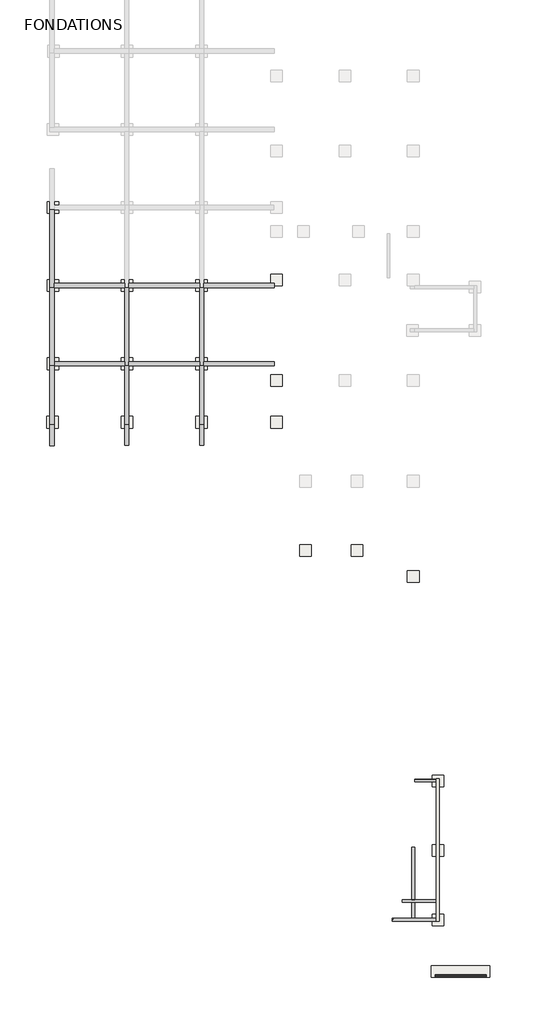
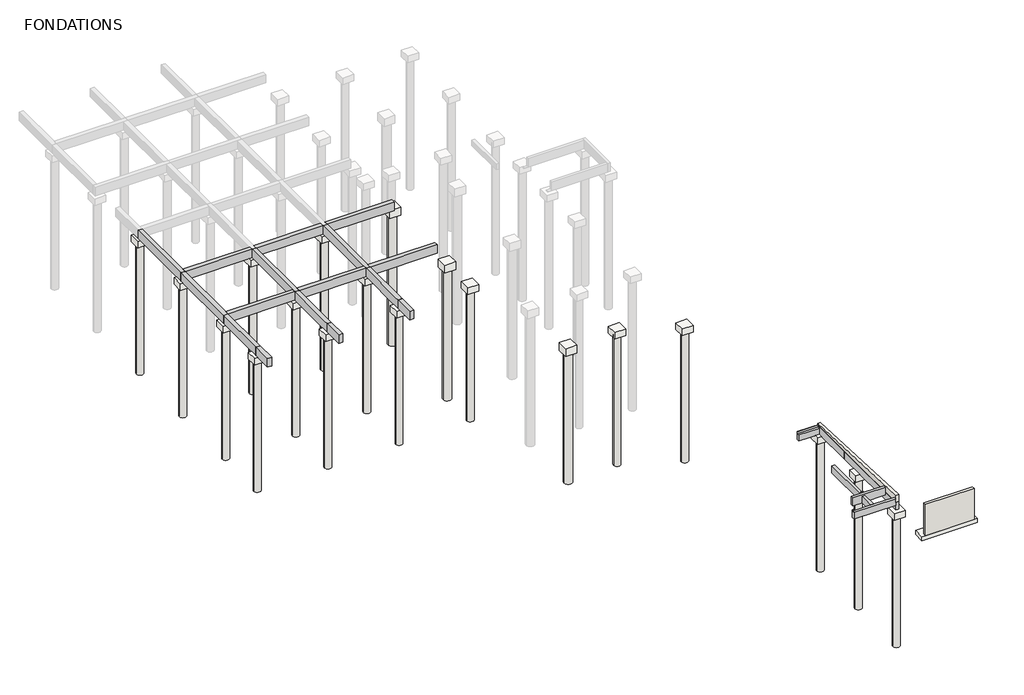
# One storey, part 1 of 3: 38 slabs, 23 beams, 2 walls, 1 footing.
"""IFC4 building model written with IfcOpenShell, lengths in millimetres."""

from ifc_helpers import new_model, si_unit, point, frame, frame_2d, origin, place, context, project, spatial, polyline, circle_curve, trimmed, segment, composite_curve, outline, extrude, faceted_brep, element, save
from ifc_brep_helpers import plane_surface, cylinder_surface, advanced_brep

model = new_model("IFC4")

# Units and contexts
model_context = context("Model", 3, world=origin())
ifc_project = project(units=[si_unit("LENGTHUNIT", "METRE", prefix="MILLI")], contexts=[model_context])

# Site, building, storey
site = spatial("IfcSite", under=ifc_project)
building = spatial("IfcBuilding", under=site)
storey = spatial("IfcBuildingStorey", under=building, Name="FONDATIONS", Elevation=-650.0)

# Beams
placement = place(None, origin())
element("IfcBeam", 1, ObjectType="Longrine : 20x70h formant chasse roue ht=10cm", at=placement, inside=storey, context=model_context, shape_type="SweptSolid", body=[
    extrude(outline(polyline([(39788.5636525, 7739.3762477), (39988.5636525, 7739.3762477), (39988.5636525, 4120.06616), (39788.5636525, 4120.06616), (39788.5636525, 7739.3762477)])), frame((0.0, 0.0, -700.0), z_axis=(0.0, 0.0, 1.0), x_axis=(1.0, 0.0, 0.0)), (0.0, 0.0, 1.0), 520.0),
    extrude(outline(polyline([(39988.5636525, 4106.9762477), (39788.5636525, 4106.9762477), (39788.5636525, 4120.06616), (39988.5636525, 4120.06616), (39988.5636525, 4106.9762477)])), frame((0.0, 0.0, -20.0), z_axis=(0.0, 0.0, 1.0), x_axis=(1.0, 0.0, 0.0)), (0.0, 0.0, 1.0), 20.0),
])
element("IfcBeam", 2, ObjectType="Longrine : 20x60h", at=placement, inside=storey, context=model_context, shape_type="Brep", body=[
    faceted_brep([(39989.0485373, 12449.8020807, -470.0), (39989.0485373, 12449.8020807, -1070.0), (39989.0485373, 12249.8020807, -1070.0), (39989.0485373, 12249.8020807, -610.8270678), (39989.0485373, 12418.9863353, -620.0), (39989.0485373, 12418.9863353, -470.0), (41489.0482781, 12249.8020807, -1070.0), (41689.0482781, 12249.8020807, -1070.0), (41689.0482781, 12249.8020807, -470.0), (41489.0482781, 12249.8020807, -470.0), (41489.0482781, 12249.8020807, -610.8270678), (41689.0482781, 12449.8020807, -1070.0), (41689.0482781, 12449.8020807, -470.0), (41489.0482781, 12418.9863353, -470.0), (41489.0482781, 12418.9863353, -620.0)], [[[0, 1, 2, 3, 4, 5]], [[2, 6, 7, 8, 9, 10, 3]], [[2, 1, 11, 7, 6]], [[1, 0, 12, 11]], [[12, 0, 5, 13, 9, 8]], [[13, 14, 10, 9]], [[10, 14, 4, 3]], [[8, 7, 11, 12]], [[14, 13, 5, 4]]]),
])
element("IfcBeam", 3, ObjectType="Longrine : 20x60h", at=placement, inside=storey, context=model_context, shape_type="Brep", body=[
    faceted_brep([(41489.0482781, 9097.0020807, -1070.0), (41489.0482781, 9097.0020807, -470.0), (41489.0482781, 12249.8020807, -470.0), (41489.0482781, 12249.8020807, -610.8270678), (41489.0482781, 12249.8020807, -1070.0), (41689.0482781, 9097.0020807, -1070.0), (41689.0482781, 12249.8020807, -1070.0), (41689.0482781, 9097.0020807, -470.0), (41689.0482781, 12249.8020807, -470.0)], [[[0, 1, 2, 3, 4]], [[5, 0, 4, 6]], [[7, 5, 6, 8]], [[1, 7, 8, 2]], [[4, 3, 2, 8, 6]], [[1, 0, 5, 7]]]),
])
element("IfcBeam", 4, ObjectType="Longrine : 20x60h", at=placement, inside=storey, context=model_context, shape_type="Brep", body=[
    faceted_brep([(41489.0482781, 2622.1194445, -470.0), (41489.0482781, 2622.1194445, -700.0), (41489.0482781, 2622.1194445, -1070.0), (41689.0482781, 2622.1194445, -1070.0), (41689.0482781, 2622.1194445, -470.0), (41501.6761683, 2622.1194445, -470.0), (41489.0482781, 9097.0020807, -470.0), (41489.0482781, 9097.0020807, -1070.0), (41689.0482781, 9097.0020807, -1070.0), (41689.0482781, 9097.0020807, -470.0)], [[[0, 1, 2, 3, 4, 5]], [[2, 1, 0, 6, 7]], [[3, 2, 7, 8]], [[4, 3, 8, 9]], [[0, 5, 4, 9, 6]], [[6, 9, 8, 7]]]),
])
element("IfcBeam", 5, ObjectType="Longrine : 20x60h", at=placement, inside=storey, context=model_context, shape_type="Brep", body=[
    faceted_brep([(39116.2100101, 3920.06616, -100.0), (39116.2100101, 4120.06616, -100.0), (39116.2100101, 4120.06616, -700.0), (39116.2100101, 3920.06616, -700.0), (39788.5636525, 3920.06616, -700.0), (39988.5636525, 3920.06616, -700.0), (41489.0482781, 3920.06616, -700.0), (41489.0482781, 3920.06616, -100.0), (39788.5636525, 4120.06616, -700.0), (39988.5636525, 4120.06616, -700.0), (41489.0482781, 4120.06616, -700.0), (39988.5636525, 4120.06616, -100.0), (39988.5636525, 4120.06616, -170.0442286), (41489.0482781, 4120.06616, -170.0442286), (41489.0482781, 4119.2504146, -100.0), (39988.5636525, 4119.2504146, -100.0), (41489.0482781, 4119.2504146, -170.0), (39988.5636525, 4119.2504146, -170.0)], [[[0, 1, 2, 3]], [[0, 3, 4, 5, 6, 7]], [[3, 2, 8, 9, 10, 6, 5, 4]], [[2, 1, 11, 12, 13, 10, 9, 8]], [[1, 0, 7, 14, 15, 11]], [[16, 17, 15, 14]], [[15, 17, 12, 11]], [[17, 16, 13, 12]], [[6, 10, 13, 16, 14, 7]]]),
])
element("IfcBeam", 6, ObjectType="Longrine : 20x60h", at=placement, inside=storey, context=model_context, shape_type="AdvancedBrep", body=[
    advanced_brep(
    [(41501.6761683, 2619.8020807, -470.0), (41501.6761683, 2619.8020807, -700.0), (41501.6761683, 2622.1194445, -700.0), (41501.6761683, 2622.1194445, -470.0), (38450.2761683, 2819.8020807, -100.0), (38450.2761683, 2819.8020807, -700.0), (38450.2761683, 2619.8020807, -700.0), (38450.2761683, 2619.8020807, -200.0), (38450.2761683, 2698.8968039, -200.0), (38450.2761683, 2698.8968039, -100.0), (41489.0482781, 2619.8020807, -470.0), (41489.0482781, 2619.8020807, -200.0), (39788.5636525, 2819.8020807, -700.0), (39988.5636525, 2819.8020807, -700.0), (41489.0482781, 2819.8020807, -700.0), (41489.0482781, 2622.1194445, -700.0), (38522.323045, 2819.8020807, -100.0), (38522.323045, 2819.8020807, -200.0), (39788.5636525, 2819.8020807, -200.0), (39988.5636525, 2819.8020807, -200.0), (41489.0482781, 2819.8020807, -200.0), (41489.0482781, 2622.1194445, -470.0)],
    [
        (0, 1),
        (1, 2),
        (2, 3),
        (3, 0),
        (4, 5),
        (5, 6),
        (6, 7),
        (7, 8),
        (8, 9),
        (9, 4),
        (6, 1),
        (0, 10),
        (10, 11),
        (11, 7),
        (5, 12),
        (12, 13),
        (13, 14),
        (14, 15),
        (15, 2),
        (4, 16),
        (16, 17),
        (17, 18),
        (18, 19),
        (19, 20),
        (20, 14),
        (17, 8, circle_curve(frame((30154.8002842, 7724.0500747, -200.0), z_axis=(0.0, 0.0, -1.0), x_axis=(1.0, 0.0, 0.0)), 9698.8187702)),
        (11, 20),
        (16, 9, circle_curve(frame((30154.8002842, 7724.0500747, -100.0), z_axis=(0.0, 0.0, -1.0), x_axis=(1.0, 0.0, 0.0)), 9698.8187702)),
        (10, 21),
        (21, 15),
        (3, 21),
    ],
    [
        plane_surface(frame((41501.6761683, 2619.8020807, -100.0), z_axis=(1.0, 0.0, 0.0), x_axis=(0.0, 0.0, -1.0))),
        plane_surface(frame((38450.2761683, 2619.8020807, -100.0), z_axis=(-1.0, 0.0, 0.0), x_axis=(0.0, 0.0, 1.0))),
        plane_surface(frame((41501.6761683, 2619.8020807, -400.0), z_axis=(0.0, -1.0, 0.0), x_axis=(0.0, 0.0, -1.0))),
        plane_surface(frame((41501.6761683, 2719.8020807, -700.0), z_axis=(0.0, 0.0, -1.0), x_axis=(0.0, 1.0, 0.0))),
        plane_surface(frame((41501.6761683, 2819.8020807, -400.0), z_axis=(0.0, 1.0, 0.0), x_axis=(0.0, 0.0, 1.0))),
        plane_surface(frame((39149.0, 2619.8020807, -200.0), z_axis=(0.0, 0.0, 1.0), x_axis=(-1.0, 0.0, 0.0))),
        cylinder_surface(frame((30154.8002842, 7724.0500747, -20.0), z_axis=(0.0, 0.0, 1.0), x_axis=(1.0, 0.0, 0.0)), 9698.8187702),
        plane_surface(frame((41501.6761683, 2719.8020807, -100.0), z_axis=(0.0, 0.0, 1.0), x_axis=(0.0, -1.0, 0.0))),
        plane_surface(frame((41489.0482781, 2619.8020807, -470.0), z_axis=(1.0, 0.0, 0.0), x_axis=(0.0, -1.0, 0.0))),
        plane_surface(frame((41689.0482781, 2619.8020807, -470.0), z_axis=(0.0, 0.0, 1.0), x_axis=(-1.0, 0.0, 0.0))),
        plane_surface(frame((41489.0482781, 2622.1194445, -470.0), z_axis=(0.0, 1.0, 0.0), x_axis=(0.0, 0.0, -1.0))),
    ],
    [
        (0, [[1, 2, 3, 4]]),
        (1, [[5, 6, 7, 8, 9, 10]]),
        (2, [[11, -1, 12, 13, 14, -7]]),
        (3, [[-6, 15, 16, 17, 18, 19, -2, -11]]),
        (4, [[-5, 20, 21, 22, 23, 24, 25, -17, -16, -15]]),
        (5, [[26, -8, -14, 27, -24, -23, -22]]),
        (6, [[-26, -21, 28, -9]]),
        (7, [[-10, -28, -20]]),
        (8, [[-13, 29, 30, -18, -25, -27]]),
        (9, [[-12, -4, 31, -29]]),
        (10, [[-30, -31, -3, -19]]),
    ],
),
])
element("IfcBeam", 7, ObjectType="Longrine : 20x60h", at=placement, inside=storey, context=model_context, shape_type="SweptSolid", body=[
    extrude(outline(polyline([(39788.5636525, 3920.06616), (39988.5636525, 3920.06616), (39988.5636525, 2819.8020807), (39788.5636525, 2819.8020807), (39788.5636525, 3920.06616)])), frame((0.0, 0.0, -700.0), z_axis=(0.0, 0.0, 1.0), x_axis=(1.0, 0.0, 0.0)), (0.0, 0.0, 1.0), 500.0),
])
element("IfcBeam", 8, ObjectType="Longrine : 30x65h", at=placement, inside=storey, context=model_context, shape_type="Brep", body=[
    faceted_brep([(14769.048278, 46399.8020807, -650.0), (14769.048278, 46399.8020807, 0.0), (14769.048278, 46463.8708492, 0.0), (14769.048278, 51799.8020807, 0.0), (14769.048278, 51799.8020807, -650.0), (15069.048278, 46399.8020807, -650.0), (15069.048278, 51799.8020807, -650.0), (15069.048278, 46699.8020807, -650.0), (15069.048278, 46399.8020807, 0.0), (15069.048278, 51799.8020807, -200.0), (15069.048278, 51799.8020807, 0.0), (15069.048278, 46699.8020807, 0.0)], [[[0, 1, 2, 3, 4]], [[5, 0, 4, 6, 7]], [[8, 5, 7, 6, 9, 10, 11]], [[1, 8, 11, 10, 3, 2]], [[1, 0, 5, 8]], [[4, 3, 10, 9, 6]]]),
])
element("IfcBeam", 9, ObjectType="Longrine : 30x65h", at=placement, inside=storey, context=model_context, shape_type="Brep", body=[
    faceted_brep([(14769.048278, 40999.8020807, -650.0), (14769.048278, 40999.8020807, 0.0), (14769.048278, 46399.8020807, 0.0), (14769.048278, 46399.8020807, -650.0), (15069.048278, 40999.8020807, -650.0), (15069.048278, 46399.8020807, -650.0), (15069.048278, 41299.8020807, -650.0), (15069.048278, 40999.8020807, 0.0), (15069.048278, 46399.8020807, -200.0), (15069.048278, 46399.8020807, 0.0), (15069.048278, 41299.8020807, 0.0)], [[[0, 1, 2, 3]], [[4, 0, 3, 5, 6]], [[7, 4, 6, 5, 8, 9, 10]], [[1, 7, 10, 9, 2]], [[3, 2, 9, 8, 5]], [[1, 0, 4, 7]]]),
])
element("IfcBeam", 10, ObjectType="Longrine : 30x65h", at=placement, inside=storey, context=model_context, shape_type="Brep", body=[
    faceted_brep([(14769.048278, 36949.8020807, -650.0), (14769.048278, 36949.8020807, 0.0), (14769.048278, 40999.8020807, 0.0), (14769.048278, 40999.8020807, -650.0), (15069.048278, 36949.8020807, -650.0), (15069.048278, 40999.8020807, -650.0), (15069.048278, 37249.8020807, -650.0), (15069.048278, 36949.8020807, 0.0), (15069.048278, 40999.8020807, -200.0), (15069.048278, 40999.8020807, 0.0), (15069.048278, 37249.8020807, 0.0)], [[[0, 1, 2, 3]], [[4, 0, 3, 5, 6]], [[7, 4, 6, 5, 8, 9, 10]], [[1, 7, 10, 9, 2]], [[3, 2, 9, 8, 5]], [[1, 0, 4, 7]]]),
])
element("IfcBeam", 11, ObjectType="Longrine : 30x65h", at=placement, inside=storey, context=model_context, shape_type="Brep", body=[
    faceted_brep([(14769.048278, 35497.620775, 0.0), (14769.048278, 35497.620775, -650.0), (15069.048278, 35497.620775, -650.0), (15069.048278, 35497.620775, 0.0), (14769.048278, 35510.1708492, 0.0), (14769.048278, 36949.8020807, 0.0), (14769.048278, 36949.8020807, -650.0), (15069.048278, 36949.8020807, -650.0), (15069.048278, 36949.8020807, -250.0), (15069.048278, 36949.8020807, 0.0), (15069.048278, 35509.8020807, 0.0)], [[[0, 1, 2, 3]], [[1, 0, 4, 5, 6]], [[2, 1, 6, 7]], [[3, 2, 7, 8, 9, 10]], [[0, 3, 10, 9, 5, 4]], [[6, 5, 9, 8, 7]]]),
])
element("IfcBeam", 12, ObjectType="Longrine : 30x65h", at=placement, inside=storey, context=model_context, shape_type="Brep", body=[
    faceted_brep([(19942.0406356, 40999.8020807, -650.0), (19942.0406356, 40999.8020807, 0.0), (19942.0406356, 41299.8020807, 0.0), (19942.0406356, 46399.8020807, 0.0), (19942.0406356, 46399.8020807, -200.0), (19942.0406356, 46399.8020807, -650.0), (19942.0406356, 41299.8020807, -650.0), (20242.0406356, 40999.8020807, -650.0), (20242.0406356, 46399.8020807, -650.0), (20242.0406356, 41299.8020807, -650.0), (20242.0406356, 40999.8020807, 0.0), (20242.0406356, 46399.8020807, -200.0), (20242.0406356, 46399.8020807, 0.0), (20242.0406356, 41299.8020807, 0.0)], [[[0, 1, 2, 3, 4, 5, 6]], [[7, 0, 6, 5, 8, 9]], [[10, 7, 9, 8, 11, 12, 13]], [[1, 10, 13, 12, 3, 2]], [[5, 4, 3, 12, 11, 8]], [[1, 0, 7, 10]]]),
])
element("IfcBeam", 13, ObjectType="Longrine : 30x65h", at=placement, inside=storey, context=model_context, shape_type="Brep", body=[
    faceted_brep([(19942.0406356, 36949.8020807, -650.0), (19942.0406356, 36949.8020807, 0.0), (19942.0406356, 37249.8020807, 0.0), (19942.0406356, 40999.8020807, 0.0), (19942.0406356, 40999.8020807, -200.0), (19942.0406356, 40999.8020807, -650.0), (19942.0406356, 37249.8020807, -650.0), (20242.0406356, 36949.8020807, -650.0), (20242.0406356, 40999.8020807, -650.0), (20242.0406356, 37249.8020807, -650.0), (20242.0406356, 36949.8020807, 0.0), (20242.0406356, 40999.8020807, -200.0), (20242.0406356, 40999.8020807, 0.0), (20242.0406356, 37249.8020807, 0.0)], [[[0, 1, 2, 3, 4, 5, 6]], [[7, 0, 6, 5, 8, 9]], [[10, 7, 9, 8, 11, 12, 13]], [[1, 10, 13, 12, 3, 2]], [[5, 4, 3, 12, 11, 8]], [[1, 0, 7, 10]]]),
])
element("IfcBeam", 14, ObjectType="Longrine : 30x65h", at=placement, inside=storey, context=model_context, shape_type="Brep", body=[
    faceted_brep([(25116.0406356, 40999.8020807, -650.0), (25116.0406356, 40999.8020807, 0.0), (25116.0406356, 41299.8020807, 0.0), (25116.0406356, 46399.8020807, 0.0), (25116.0406356, 46399.8020807, -200.0), (25116.0406356, 46399.8020807, -650.0), (25116.0406356, 41299.8020807, -650.0), (25416.0406356, 40999.8020807, -650.0), (25416.0406356, 46399.8020807, -650.0), (25416.0406356, 41299.8020807, -650.0), (25416.0406356, 40999.8020807, 0.0), (25416.0406356, 46399.8020807, -200.0), (25416.0406356, 46399.8020807, 0.0), (25416.0406356, 41299.8020807, 0.0)], [[[0, 1, 2, 3, 4, 5, 6]], [[7, 0, 6, 5, 8, 9]], [[10, 7, 9, 8, 11, 12, 13]], [[1, 10, 13, 12, 3, 2]], [[5, 4, 3, 12, 11, 8]], [[1, 0, 7, 10]]]),
])
element("IfcBeam", 15, ObjectType="Longrine : 30x65h", at=placement, inside=storey, context=model_context, shape_type="Brep", body=[
    faceted_brep([(25116.0406356, 36949.8020807, -650.0), (25116.0406356, 36949.8020807, 0.0), (25116.0406356, 37249.8020807, 0.0), (25116.0406356, 40999.8020807, 0.0), (25116.0406356, 40999.8020807, -200.0), (25116.0406356, 40999.8020807, -650.0), (25116.0406356, 37299.8020807, -650.0), (25116.0406356, 37249.8020807, -650.0), (25416.0406356, 36949.8020807, -650.0), (25416.0406356, 40999.8020807, -650.0), (25416.0406356, 37299.8020807, -650.0), (25416.0406356, 36999.8020807, -650.0), (25416.0406356, 36949.8020807, 0.0), (25416.0406356, 40999.8020807, -200.0), (25416.0406356, 40999.8020807, 0.0), (25416.0406356, 37299.8020807, 0.0), (25416.0406356, 36999.8020807, 0.0)], [[[0, 1, 2, 3, 4, 5, 6, 7]], [[8, 0, 7, 6, 5, 9, 10, 11]], [[12, 8, 11, 10, 9, 13, 14, 15, 16]], [[1, 12, 16, 15, 14, 3, 2]], [[5, 4, 3, 14, 13, 9]], [[1, 0, 8, 12]]]),
])
element("IfcBeam", 16, ObjectType="Longrine : 30x65h", at=placement, inside=storey, context=model_context, shape_type="Brep", body=[
    faceted_brep([(15069.048278, 46399.8020807, 0.0), (15069.048278, 46399.8020807, -200.0), (15069.048278, 46399.8020807, -650.0), (19942.0406356, 46399.8020807, -650.0), (19942.0406356, 46399.8020807, -200.0), (19942.0406356, 46399.8020807, 0.0), (15069.048278, 46699.8020807, -650.0), (19942.0406356, 46699.8020807, -650.0), (15069.048278, 46699.8020807, -200.0), (15069.048278, 46699.8020807, 0.0), (19942.0406356, 46699.8020807, 0.0), (19942.0406356, 46699.8020807, -200.0)], [[[0, 1, 2, 3, 4, 5]], [[2, 6, 7, 3]], [[6, 8, 9, 10, 11, 7]], [[9, 0, 5, 10]], [[2, 1, 0, 9, 8, 6]], [[5, 4, 3, 7, 11, 10]]]),
])
element("IfcBeam", 17, ObjectType="Longrine : 30x65h", at=placement, inside=storey, context=model_context, shape_type="Brep", body=[
    faceted_brep([(20242.0406356, 46399.8020807, 0.0), (20242.0406356, 46399.8020807, -200.0), (20242.0406356, 46399.8020807, -650.0), (25116.0406356, 46399.8020807, -650.0), (25116.0406356, 46399.8020807, -200.0), (25116.0406356, 46399.8020807, 0.0), (20242.0406356, 46699.8020807, -650.0), (25116.0406356, 46699.8020807, -650.0), (20242.0406356, 46699.8020807, -200.0), (20242.0406356, 46699.8020807, 0.0), (25116.0406356, 46699.8020807, 0.0), (25116.0406356, 46699.8020807, -200.0)], [[[0, 1, 2, 3, 4, 5]], [[2, 6, 7, 3]], [[6, 8, 9, 10, 11, 7]], [[9, 0, 5, 10]], [[6, 2, 1, 0, 9, 8]], [[5, 4, 3, 7, 11, 10]]]),
])
element("IfcBeam", 18, ObjectType="Longrine : 30x65h", at=placement, inside=storey, context=model_context, shape_type="Brep", body=[
    faceted_brep([(30289.0482779, 46399.8020807, -650.0), (30289.0482779, 46399.8020807, -200.0), (30289.0482779, 46399.8020807, 0.0), (25416.0406356, 46399.8020807, 0.0), (25416.0406356, 46399.8020807, -200.0), (25416.0406356, 46399.8020807, -650.0), (30289.0482779, 46699.8020807, -650.0), (30289.0482779, 46699.8020807, -200.0), (30289.0482779, 46699.8020807, 0.0), (25416.0406356, 46699.8020807, 0.0), (25416.0406356, 46699.8020807, -200.0), (25416.0406356, 46699.8020807, -650.0)], [[[0, 1, 2, 3, 4, 5]], [[2, 1, 0, 6, 7, 8]], [[5, 4, 3, 9, 10, 11]], [[6, 0, 5, 11]], [[8, 7, 6, 11, 10, 9]], [[2, 8, 9, 3]]]),
])
element("IfcBeam", 19, ObjectType="Longrine : 30x65h", at=placement, inside=storey, context=model_context, shape_type="Brep", body=[
    faceted_brep([(15069.048278, 40999.8020807, 0.0), (15069.048278, 40999.8020807, -200.0), (15069.048278, 40999.8020807, -650.0), (19942.0406356, 40999.8020807, -650.0), (19942.0406356, 40999.8020807, -200.0), (19942.0406356, 40999.8020807, 0.0), (15069.048278, 41299.8020807, -650.0), (19942.0406356, 41299.8020807, -650.0), (15069.048278, 41299.8020807, -200.0), (15069.048278, 41299.8020807, 0.0), (19942.0406356, 41299.8020807, 0.0), (19942.0406356, 41299.8020807, -200.0)], [[[0, 1, 2, 3, 4, 5]], [[2, 6, 7, 3]], [[6, 8, 9, 10, 11, 7]], [[9, 0, 5, 10]], [[2, 1, 0, 9, 8, 6]], [[5, 4, 3, 7, 11, 10]]]),
])
element("IfcBeam", 20, ObjectType="Longrine : 30x65h", at=placement, inside=storey, context=model_context, shape_type="Brep", body=[
    faceted_brep([(20242.0406356, 40999.8020807, 0.0), (20242.0406356, 40999.8020807, -200.0), (20242.0406356, 40999.8020807, -650.0), (25116.0406356, 40999.8020807, -650.0), (25116.0406356, 40999.8020807, -200.0), (25116.0406356, 40999.8020807, 0.0), (20242.0406356, 41299.8020807, -650.0), (25116.0406356, 41299.8020807, -650.0), (20242.0406356, 41299.8020807, -200.0), (20242.0406356, 41299.8020807, 0.0), (25116.0406356, 41299.8020807, 0.0), (25116.0406356, 41299.8020807, -200.0)], [[[0, 1, 2, 3, 4, 5]], [[2, 6, 7, 3]], [[6, 8, 9, 10, 11, 7]], [[9, 0, 5, 10]], [[2, 1, 0, 9, 8, 6]], [[5, 4, 3, 7, 11, 10]]]),
])
element("IfcBeam", 21, ObjectType="Longrine : 30x65h", at=placement, inside=storey, context=model_context, shape_type="Brep", body=[
    faceted_brep([(30289.0482779, 40999.8020807, -650.0), (30289.0482779, 40999.8020807, -200.0), (30289.0482779, 40999.8020807, 0.0), (25416.0406356, 40999.8020807, 0.0), (25416.0406356, 40999.8020807, -200.0), (25416.0406356, 40999.8020807, -650.0), (30289.0482779, 41299.8020807, -650.0), (25416.0406356, 41299.8020807, -650.0), (30289.0482779, 41299.8020807, 0.0), (30289.0482779, 41299.8020807, -200.0), (25416.0406356, 41299.8020807, -200.0), (25416.0406356, 41299.8020807, 0.0)], [[[0, 1, 2, 3, 4, 5]], [[6, 0, 5, 7]], [[8, 9, 6, 7, 10, 11]], [[2, 8, 11, 3]], [[2, 1, 0, 6, 9, 8]], [[5, 4, 3, 11, 10, 7]]]),
])
element("IfcBeam", 22, ObjectType="Longrine : 30x65h", at=placement, inside=storey, context=model_context, shape_type="Brep", body=[
    faceted_brep([(19942.0406356, 35509.7020807, 0.0), (19942.0406356, 35509.7020807, -650.0), (20242.0406356, 35509.7020807, -650.0), (20242.0406356, 35509.7020807, 0.0), (19942.0406356, 36949.8020807, 0.0), (19942.0406356, 36949.8020807, -250.0), (19942.0406356, 36949.8020807, -650.0), (20242.0406356, 36949.8020807, -650.0), (20242.0406356, 36949.8020807, -250.0), (20242.0406356, 36949.8020807, 0.0)], [[[0, 1, 2, 3]], [[1, 0, 4, 5, 6]], [[2, 1, 6, 7]], [[3, 2, 7, 8, 9]], [[0, 3, 9, 4]], [[6, 5, 4, 9, 8, 7]]]),
])
element("IfcBeam", 23, ObjectType="Longrine : 30x65h", at=placement, inside=storey, context=model_context, shape_type="Brep", body=[
    faceted_brep([(25116.0406356, 35509.7145436, 0.0), (25116.0406356, 35509.7145436, -650.0), (25416.0406356, 35509.7145436, -650.0), (25416.0406356, 35509.7145436, 0.0), (25116.0406356, 36949.8020807, 0.0), (25116.0406356, 36949.8020807, -250.0), (25116.0406356, 36949.8020807, -650.0), (25416.0406356, 36949.8020807, -650.0), (25416.0406356, 36949.8020807, 0.0)], [[[0, 1, 2, 3]], [[1, 0, 4, 5, 6]], [[2, 1, 6, 7]], [[3, 2, 7, 8]], [[0, 3, 8, 4]], [[6, 5, 4, 8, 7]]]),
])

# Footing
element("IfcFooting", 24, ObjectType="Semelle Filante désaxée 80x30ht", at=placement, inside=storey, context=model_context, shape_type="SweptSolid", body=[
    extrude(outline(polyline([(41148.004981, -1262.4182646), (41148.004981, -462.4182646), (45188.004981, -462.4182646), (45188.004981, -1262.4182646), (41148.004981, -1262.4182646)])), frame((0.0, 0.0, -950.0), z_axis=(0.0, 0.0, 1.0), x_axis=(1.0, 0.0, 0.0)), (0.0, 0.0, 1.0), 300.0),
])

# Slabs
element("IfcSlab", 25, ObjectType="M_Pieu-Béton : Diamètre de 60 cm", at=placement, inside=storey, context=model_context, shape_type="SweptSolid", body=[
    extrude(outline(composite_curve([segment(trimmed(circle_curve(frame_2d((30439.0482779, 46929.8020813)), 300.0), [point((30139.0482779, 46929.8020813))], [point((30739.0482779, 46929.8020813))], False, "CARTESIAN"), True, "CONTINUOUS"), segment(trimmed(circle_curve(frame_2d((30439.0482779, 46929.8020813)), 300.0), [point((30739.0482779, 46929.8020813))], [point((30139.0482779, 46929.8020813))], False, "CARTESIAN"), True, "CONTINUOUS")], self_intersect=False)), frame((0.0, 0.0, -11250.0), z_axis=(0.0, 0.0, 1.0), x_axis=(1.0, 0.0, 0.0)), (0.0, 0.0, 1.0), 10000.0),
])
element("IfcSlab", 26, ObjectType="M_Pieu-Béton : Diamètre de 60 cm", at=placement, inside=storey, context=model_context, shape_type="SweptSolid", body=[
    extrude(outline(composite_curve([segment(trimmed(circle_curve(frame_2d((30439.0482779, 39999.8020813)), 300.0), [point((30139.0482779, 39999.8020813))], [point((30739.0482779, 39999.8020813))], False, "CARTESIAN"), True, "CONTINUOUS"), segment(trimmed(circle_curve(frame_2d((30439.0482779, 39999.8020813)), 300.0), [point((30739.0482779, 39999.8020813))], [point((30139.0482779, 39999.8020813))], False, "CARTESIAN"), True, "CONTINUOUS")], self_intersect=False)), frame((0.0, 0.0, -11250.0), z_axis=(0.0, 0.0, 1.0), x_axis=(1.0, 0.0, 0.0)), (0.0, 0.0, 1.0), 10000.0),
])
element("IfcSlab", 27, ObjectType="M_Pieu-Béton : Diamètre de 60 cm", at=placement, inside=storey, context=model_context, shape_type="SweptSolid", body=[
    extrude(outline(composite_curve([segment(trimmed(circle_curve(frame_2d((32449.048278, 28249.8020807)), 300.0), [point((32149.048278, 28249.8020807))], [point((32749.048278, 28249.8020807))], False, "CARTESIAN"), True, "CONTINUOUS"), segment(trimmed(circle_curve(frame_2d((32449.048278, 28249.8020807)), 300.0), [point((32749.048278, 28249.8020807))], [point((32149.048278, 28249.8020807))], False, "CARTESIAN"), True, "CONTINUOUS")], self_intersect=False)), frame((0.0, 0.0, -11250.0), z_axis=(0.0, 0.0, 1.0), x_axis=(1.0, 0.0, 0.0)), (0.0, 0.0, 1.0), 10000.0),
])
element("IfcSlab", 28, ObjectType="M_Pieu-Béton : Diamètre de 50 cm", at=placement, inside=storey, context=model_context, shape_type="SweptSolid", body=[
    extrude(outline(composite_curve([segment(trimmed(circle_curve(frame_2d((25266.0406356, 41149.8020807)), 250.0), [point((25016.0406356, 41149.8020807))], [point((25516.0406356, 41149.8020807))], False, "CARTESIAN"), True, "CONTINUOUS"), segment(trimmed(circle_curve(frame_2d((25266.0406356, 41149.8020807)), 250.0), [point((25516.0406356, 41149.8020807))], [point((25016.0406356, 41149.8020807))], False, "CARTESIAN"), True, "CONTINUOUS")], self_intersect=False)), frame((0.0, 0.0, -11150.0), z_axis=(0.0, 0.0, 1.0), x_axis=(1.0, 0.0, 0.0)), (0.0, 0.0, 1.0), 10000.0),
])
element("IfcSlab", 29, ObjectType="M_Pieu-Béton : Diamètre de 50 cm", at=placement, inside=storey, context=model_context, shape_type="SweptSolid", body=[
    extrude(outline(composite_curve([segment(trimmed(circle_curve(frame_2d((20092.0406356, 41149.8020807)), 250.0), [point((19842.0406356, 41149.8020807))], [point((20342.0406356, 41149.8020807))], False, "CARTESIAN"), True, "CONTINUOUS"), segment(trimmed(circle_curve(frame_2d((20092.0406356, 41149.8020807)), 250.0), [point((20342.0406356, 41149.8020807))], [point((19842.0406356, 41149.8020807))], False, "CARTESIAN"), True, "CONTINUOUS")], self_intersect=False)), frame((0.0, 0.0, -11150.0), z_axis=(0.0, 0.0, 1.0), x_axis=(1.0, 0.0, 0.0)), (0.0, 0.0, 1.0), 10000.0),
])
element("IfcSlab", 30, ObjectType="M_Pieu-Béton : Diamètre de 50 cm", at=placement, inside=storey, context=model_context, shape_type="SweptSolid", body=[
    extrude(outline(composite_curve([segment(trimmed(circle_curve(frame_2d((25266.0406356, 46549.8020807)), 250.0), [point((25016.0406356, 46549.8020807))], [point((25516.0406356, 46549.8020807))], False, "CARTESIAN"), True, "CONTINUOUS"), segment(trimmed(circle_curve(frame_2d((25266.0406356, 46549.8020807)), 250.0), [point((25516.0406356, 46549.8020807))], [point((25016.0406356, 46549.8020807))], False, "CARTESIAN"), True, "CONTINUOUS")], self_intersect=False)), frame((0.0, 0.0, -11150.0), z_axis=(0.0, 0.0, 1.0), x_axis=(1.0, 0.0, 0.0)), (0.0, 0.0, 1.0), 10000.0),
])
element("IfcSlab", 31, ObjectType="M_Pieu-Béton : Diamètre de 50 cm", at=placement, inside=storey, context=model_context, shape_type="SweptSolid", body=[
    extrude(outline(composite_curve([segment(trimmed(circle_curve(frame_2d((20092.0406356, 46549.8020807)), 250.0), [point((19842.0406356, 46549.8020807))], [point((20342.0406356, 46549.8020807))], False, "CARTESIAN"), True, "CONTINUOUS"), segment(trimmed(circle_curve(frame_2d((20092.0406356, 46549.8020807)), 250.0), [point((20342.0406356, 46549.8020807))], [point((19842.0406356, 46549.8020807))], False, "CARTESIAN"), True, "CONTINUOUS")], self_intersect=False)), frame((0.0, 0.0, -11150.0), z_axis=(0.0, 0.0, 1.0), x_axis=(1.0, 0.0, 0.0)), (0.0, 0.0, 1.0), 10000.0),
])
element("IfcSlab", 32, ObjectType="M_Pieu-Béton : Diamètre de 50 cm", at=placement, inside=storey, context=model_context, shape_type="SweptSolid", body=[
    extrude(outline(composite_curve([segment(trimmed(circle_curve(frame_2d((25266.0406356, 37109.8020807)), 250.0), [point((25016.0406356, 37109.8020807))], [point((25516.0406356, 37109.8020807))], False, "CARTESIAN"), True, "CONTINUOUS"), segment(trimmed(circle_curve(frame_2d((25266.0406356, 37109.8020807)), 250.0), [point((25516.0406356, 37109.8020807))], [point((25016.0406356, 37109.8020807))], False, "CARTESIAN"), True, "CONTINUOUS")], self_intersect=False)), frame((0.0, 0.0, -11150.0), z_axis=(0.0, 0.0, 1.0), x_axis=(1.0, 0.0, 0.0)), (0.0, 0.0, 1.0), 10000.0),
])
element("IfcSlab", 33, ObjectType="M_Pieu-Béton : Diamètre de 50 cm", at=placement, inside=storey, context=model_context, shape_type="SweptSolid", body=[
    extrude(outline(composite_curve([segment(trimmed(circle_curve(frame_2d((30439.0482779, 37109.8020807)), 250.0), [point((30189.0482779, 37109.8020807))], [point((30689.0482779, 37109.8020807))], False, "CARTESIAN"), True, "CONTINUOUS"), segment(trimmed(circle_curve(frame_2d((30439.0482779, 37109.8020807)), 250.0), [point((30689.0482779, 37109.8020807))], [point((30189.0482779, 37109.8020807))], False, "CARTESIAN"), True, "CONTINUOUS")], self_intersect=False)), frame((0.0, 0.0, -11150.0), z_axis=(0.0, 0.0, 1.0), x_axis=(1.0, 0.0, 0.0)), (0.0, 0.0, 1.0), 10000.0),
])
element("IfcSlab", 34, ObjectType="M_Pieu-Béton : Diamètre de 50 cm", at=placement, inside=storey, context=model_context, shape_type="SweptSolid", body=[
    extrude(outline(composite_curve([segment(trimmed(circle_curve(frame_2d((36004.0482778, 28249.8020807)), 250.0), [point((35754.0482778, 28249.8020807))], [point((36254.0482778, 28249.8020807))], False, "CARTESIAN"), True, "CONTINUOUS"), segment(trimmed(circle_curve(frame_2d((36004.0482778, 28249.8020807)), 250.0), [point((36254.0482778, 28249.8020807))], [point((35754.0482778, 28249.8020807))], False, "CARTESIAN"), True, "CONTINUOUS")], self_intersect=False)), frame((0.0, 0.0, -11150.0), z_axis=(0.0, 0.0, 1.0), x_axis=(1.0, 0.0, 0.0)), (0.0, 0.0, 1.0), 10000.0),
])
element("IfcSlab", 35, ObjectType="M_Pieu-Béton : Diamètre de 50 cm", at=placement, inside=storey, context=model_context, shape_type="SweptSolid", body=[
    extrude(outline(composite_curve([segment(trimmed(circle_curve(frame_2d((39889.0482781, 26449.8020807)), 250.0), [point((39639.0482781, 26449.8020807))], [point((40139.0482781, 26449.8020807))], False, "CARTESIAN"), True, "CONTINUOUS"), segment(trimmed(circle_curve(frame_2d((39889.0482781, 26449.8020807)), 250.0), [point((40139.0482781, 26449.8020807))], [point((39639.0482781, 26449.8020807))], False, "CARTESIAN"), True, "CONTINUOUS")], self_intersect=False)), frame((0.0, 0.0, -11150.0), z_axis=(0.0, 0.0, 1.0), x_axis=(1.0, 0.0, 0.0)), (0.0, 0.0, 1.0), 10000.0),
])
element("IfcSlab", 36, ObjectType="M_Pieu-Béton : Diamètre de 50 cm", at=placement, inside=storey, context=model_context, shape_type="SweptSolid", body=[
    extrude(outline(composite_curve([segment(trimmed(circle_curve(frame_2d((14944.048278, 37109.8020807)), 250.0), [point((14694.048278, 37109.8020807))], [point((15194.048278, 37109.8020807))], False, "CARTESIAN"), True, "CONTINUOUS"), segment(trimmed(circle_curve(frame_2d((14944.048278, 37109.8020807)), 250.0), [point((15194.048278, 37109.8020807))], [point((14694.048278, 37109.8020807))], False, "CARTESIAN"), True, "CONTINUOUS")], self_intersect=False)), frame((0.0, 0.0, -11150.0), z_axis=(0.0, 0.0, 1.0), x_axis=(1.0, 0.0, 0.0)), (0.0, 0.0, 1.0), 10000.0),
])
element("IfcSlab", 37, ObjectType="M_Pieu-Béton : Diamètre de 50 cm", at=placement, inside=storey, context=model_context, shape_type="SweptSolid", body=[
    extrude(outline(composite_curve([segment(trimmed(circle_curve(frame_2d((20092.0406356, 37109.8020807)), 250.0), [point((19842.0406356, 37109.8020807))], [point((20342.0406356, 37109.8020807))], False, "CARTESIAN"), True, "CONTINUOUS"), segment(trimmed(circle_curve(frame_2d((20092.0406356, 37109.8020807)), 250.0), [point((20342.0406356, 37109.8020807))], [point((19842.0406356, 37109.8020807))], False, "CARTESIAN"), True, "CONTINUOUS")], self_intersect=False)), frame((0.0, 0.0, -11150.0), z_axis=(0.0, 0.0, 1.0), x_axis=(1.0, 0.0, 0.0)), (0.0, 0.0, 1.0), 10000.0),
])
element("IfcSlab", 38, ObjectType="M_Pieu-Béton : Diamètre de 50 cm", at=placement, inside=storey, context=model_context, shape_type="SweptSolid", body=[
    extrude(outline(composite_curve([segment(trimmed(circle_curve(frame_2d((14989.048278, 41149.8020807)), 250.0), [point((14739.048278, 41149.8020807))], [point((15239.048278, 41149.8020807))], False, "CARTESIAN"), True, "CONTINUOUS"), segment(trimmed(circle_curve(frame_2d((14989.048278, 41149.8020807)), 250.0), [point((15239.048278, 41149.8020807))], [point((14739.048278, 41149.8020807))], False, "CARTESIAN"), True, "CONTINUOUS")], self_intersect=False)), frame((0.0, 0.0, -11150.0), z_axis=(0.0, 0.0, 1.0), x_axis=(1.0, 0.0, 0.0)), (0.0, 0.0, 1.0), 10000.0),
])
element("IfcSlab", 39, ObjectType="M_Pieu-Béton : Diamètre de 50 cm", at=placement, inside=storey, context=model_context, shape_type="SweptSolid", body=[
    extrude(outline(composite_curve([segment(trimmed(circle_curve(frame_2d((14989.048278, 46549.8020807)), 250.0), [point((14739.048278, 46549.8020807))], [point((15239.048278, 46549.8020807))], False, "CARTESIAN"), True, "CONTINUOUS"), segment(trimmed(circle_curve(frame_2d((14989.048278, 46549.8020807)), 250.0), [point((15239.048278, 46549.8020807))], [point((14739.048278, 46549.8020807))], False, "CARTESIAN"), True, "CONTINUOUS")], self_intersect=False)), frame((0.0, 0.0, -11150.0), z_axis=(0.0, 0.0, 1.0), x_axis=(1.0, 0.0, 0.0)), (0.0, 0.0, 1.0), 10000.0),
])
element("IfcSlab", 40, ObjectType="M_Pieu-Béton : Diamètre de 50 cm", at=placement, inside=storey, context=model_context, shape_type="SweptSolid", body=[
    extrude(outline(composite_curve([segment(trimmed(circle_curve(frame_2d((14989.048278, 51949.8020807)), 250.0), [point((14739.048278, 51949.8020807))], [point((15239.048278, 51949.8020807))], False, "CARTESIAN"), True, "CONTINUOUS"), segment(trimmed(circle_curve(frame_2d((14989.048278, 51949.8020807)), 250.0), [point((15239.048278, 51949.8020807))], [point((14739.048278, 51949.8020807))], False, "CARTESIAN"), True, "CONTINUOUS")], self_intersect=False)), frame((0.0, 0.0, -11150.0), z_axis=(0.0, 0.0, 1.0), x_axis=(1.0, 0.0, 0.0)), (0.0, 0.0, 1.0), 10000.0),
])
element("IfcSlab", 41, ObjectType="M_Pieu-Béton : Diamètre de 50 cm", at=placement, inside=storey, context=model_context, shape_type="SweptSolid", body=[
    extrude(outline(composite_curve([segment(trimmed(circle_curve(frame_2d((41589.0482781, 12319.8020807)), 250.0), [point((41339.0482781, 12319.8020807))], [point((41839.0482781, 12319.8020807))], False, "CARTESIAN"), True, "CONTINUOUS"), segment(trimmed(circle_curve(frame_2d((41589.0482781, 12319.8020807)), 250.0), [point((41839.0482781, 12319.8020807))], [point((41339.0482781, 12319.8020807))], False, "CARTESIAN"), True, "CONTINUOUS")], self_intersect=False)), frame((0.0, 0.0, -11570.0), z_axis=(0.0, 0.0, 1.0), x_axis=(1.0, 0.0, 0.0)), (0.0, 0.0, 1.0), 10000.0),
])
element("IfcSlab", 42, ObjectType="M_Pieu-Béton : Diamètre de 50 cm", at=placement, inside=storey, context=model_context, shape_type="SweptSolid", body=[
    extrude(outline(composite_curve([segment(trimmed(circle_curve(frame_2d((41589.0482781, 7519.8020807)), 250.0), [point((41339.0482781, 7519.8020807))], [point((41839.0482781, 7519.8020807))], False, "CARTESIAN"), True, "CONTINUOUS"), segment(trimmed(circle_curve(frame_2d((41589.0482781, 7519.8020807)), 250.0), [point((41839.0482781, 7519.8020807))], [point((41339.0482781, 7519.8020807))], False, "CARTESIAN"), True, "CONTINUOUS")], self_intersect=False)), frame((0.0, 0.0, -11570.0), z_axis=(0.0, 0.0, 1.0), x_axis=(1.0, 0.0, 0.0)), (0.0, 0.0, 1.0), 10000.0),
])
element("IfcSlab", 43, ObjectType="M_Pieu-Béton : Diamètre de 50 cm", at=placement, inside=storey, context=model_context, shape_type="SweptSolid", body=[
    extrude(outline(composite_curve([segment(trimmed(circle_curve(frame_2d((41589.0482781, 2719.8020807)), 250.0), [point((41339.0482781, 2719.8020807))], [point((41839.0482781, 2719.8020807))], False, "CARTESIAN"), True, "CONTINUOUS"), segment(trimmed(circle_curve(frame_2d((41589.0482781, 2719.8020807)), 250.0), [point((41839.0482781, 2719.8020807))], [point((41339.0482781, 2719.8020807))], False, "CARTESIAN"), True, "CONTINUOUS")], self_intersect=False)), frame((0.0, 0.0, -11570.0), z_axis=(0.0, 0.0, 1.0), x_axis=(1.0, 0.0, 0.0)), (0.0, 0.0, 1.0), 10000.0),
])
element("IfcSlab", 44, ObjectType="Massif TETE -1 pieu diam 50 : 80x80x50cm", at=placement, inside=storey, context=model_context, shape_type="SweptSolid", body=[
    extrude(outline(polyline([(25666.0406356, 41549.8020807), (25666.0406356, 40749.8020807), (24866.0406356, 40749.8020807), (24866.0406356, 41549.8020807), (25666.0406356, 41549.8020807)])), frame((0.0, 0.0, -1150.0), z_axis=(0.0, 0.0, 1.0), x_axis=(1.0, 0.0, 0.0)), (0.0, 0.0, 1.0), 500.0),
])
element("IfcSlab", 45, ObjectType="Massif TETE -1 pieu diam 50 : 80x80x50cm", at=placement, inside=storey, context=model_context, shape_type="SweptSolid", body=[
    extrude(outline(polyline([(20492.0406356, 41549.8020807), (20492.0406356, 40749.8020807), (19692.0406356, 40749.8020807), (19692.0406356, 41549.8020807), (20492.0406356, 41549.8020807)])), frame((0.0, 0.0, -1150.0), z_axis=(0.0, 0.0, 1.0), x_axis=(1.0, 0.0, 0.0)), (0.0, 0.0, 1.0), 500.0),
])
element("IfcSlab", 46, ObjectType="Massif TETE -1 pieu diam 50 : 80x80x50cm", at=placement, inside=storey, context=model_context, shape_type="SweptSolid", body=[
    extrude(outline(polyline([(25666.0406356, 46949.8020807), (25666.0406356, 46149.8020807), (24866.0406356, 46149.8020807), (24866.0406356, 46949.8020807), (25666.0406356, 46949.8020807)])), frame((0.0, 0.0, -1150.0), z_axis=(0.0, 0.0, 1.0), x_axis=(1.0, 0.0, 0.0)), (0.0, 0.0, 1.0), 500.0),
])
element("IfcSlab", 47, ObjectType="Massif TETE -1 pieu diam 50 : 80x80x50cm", at=placement, inside=storey, context=model_context, shape_type="SweptSolid", body=[
    extrude(outline(polyline([(20492.0406356, 46949.8020807), (20492.0406356, 46149.8020807), (19692.0406356, 46149.8020807), (19692.0406356, 46949.8020807), (20492.0406356, 46949.8020807)])), frame((0.0, 0.0, -1150.0), z_axis=(0.0, 0.0, 1.0), x_axis=(1.0, 0.0, 0.0)), (0.0, 0.0, 1.0), 500.0),
])
element("IfcSlab", 48, ObjectType="Massif TETE -1 pieu diam 50 : 80x80x50cm", at=placement, inside=storey, context=model_context, shape_type="SweptSolid", body=[
    extrude(outline(polyline([(25666.0406356, 37509.8020807), (25666.0406356, 36709.8020807), (24866.0406356, 36709.8020807), (24866.0406356, 37509.8020807), (25666.0406356, 37509.8020807)])), frame((0.0, 0.0, -1150.0), z_axis=(0.0, 0.0, 1.0), x_axis=(1.0, 0.0, 0.0)), (0.0, 0.0, 1.0), 500.0),
])
element("IfcSlab", 49, ObjectType="Massif TETE -1 pieu diam 50 : 80x80x50cm", at=placement, inside=storey, context=model_context, shape_type="SweptSolid", body=[
    extrude(outline(polyline([(30839.0482779, 37509.8020807), (30839.0482779, 36709.8020807), (30039.0482779, 36709.8020807), (30039.0482779, 37509.8020807), (30839.0482779, 37509.8020807)])), frame((0.0, 0.0, -1150.0), z_axis=(0.0, 0.0, 1.0), x_axis=(1.0, 0.0, 0.0)), (0.0, 0.0, 1.0), 500.0),
])
element("IfcSlab", 50, ObjectType="Massif TETE -1 pieu diam 50 : 80x80x50cm", at=placement, inside=storey, context=model_context, shape_type="SweptSolid", body=[
    extrude(outline(polyline([(36404.0482778, 28649.8020807), (36404.0482778, 27849.8020807), (35604.0482778, 27849.8020807), (35604.0482778, 28649.8020807), (36404.0482778, 28649.8020807)])), frame((0.0, 0.0, -1150.0), z_axis=(0.0, 0.0, 1.0), x_axis=(1.0, 0.0, 0.0)), (0.0, 0.0, 1.0), 500.0),
])
element("IfcSlab", 51, ObjectType="Massif TETE -1 pieu diam 50 : 80x80x50cm", at=placement, inside=storey, context=model_context, shape_type="SweptSolid", body=[
    extrude(outline(polyline([(40289.0482781, 26849.8020807), (40289.0482781, 26049.8020807), (39489.0482781, 26049.8020807), (39489.0482781, 26849.8020807), (40289.0482781, 26849.8020807)])), frame((0.0, 0.0, -1150.0), z_axis=(0.0, 0.0, 1.0), x_axis=(1.0, 0.0, 0.0)), (0.0, 0.0, 1.0), 500.0),
])
element("IfcSlab", 52, ObjectType="Massif TETE -1 pieu diam 50 : 80x80x50cm", at=placement, inside=storey, context=model_context, shape_type="SweptSolid", body=[
    extrude(outline(polyline([(15344.048278, 37509.8020807), (15344.048278, 36709.8020807), (14544.048278, 36709.8020807), (14544.048278, 37509.8020807), (15344.048278, 37509.8020807)])), frame((0.0, 0.0, -1150.0), z_axis=(0.0, 0.0, 1.0), x_axis=(1.0, 0.0, 0.0)), (0.0, 0.0, 1.0), 500.0),
])
element("IfcSlab", 53, ObjectType="Massif TETE -1 pieu diam 50 : 80x80x50cm", at=placement, inside=storey, context=model_context, shape_type="SweptSolid", body=[
    extrude(outline(polyline([(20492.0406356, 37509.8020807), (20492.0406356, 36709.8020807), (19692.0406356, 36709.8020807), (19692.0406356, 37509.8020807), (20492.0406356, 37509.8020807)])), frame((0.0, 0.0, -1150.0), z_axis=(0.0, 0.0, 1.0), x_axis=(1.0, 0.0, 0.0)), (0.0, 0.0, 1.0), 500.0),
])
element("IfcSlab", 54, ObjectType="Massif TETE -1 pieu diam 50 : 80x80x50cm", at=placement, inside=storey, context=model_context, shape_type="SweptSolid", body=[
    extrude(outline(polyline([(15389.048278, 41549.8020807), (15389.048278, 40749.8020807), (14589.048278, 40749.8020807), (14589.048278, 41549.8020807), (15389.048278, 41549.8020807)])), frame((0.0, 0.0, -1150.0), z_axis=(0.0, 0.0, 1.0), x_axis=(1.0, 0.0, 0.0)), (0.0, 0.0, 1.0), 500.0),
])
element("IfcSlab", 55, ObjectType="Massif TETE -1 pieu diam 50 : 80x80x50cm", at=placement, inside=storey, context=model_context, shape_type="SweptSolid", body=[
    extrude(outline(polyline([(15389.048278, 46949.8020807), (15389.048278, 46149.8020807), (14589.048278, 46149.8020807), (14589.048278, 46949.8020807), (15389.048278, 46949.8020807)])), frame((0.0, 0.0, -1150.0), z_axis=(0.0, 0.0, 1.0), x_axis=(1.0, 0.0, 0.0)), (0.0, 0.0, 1.0), 500.0),
])
element("IfcSlab", 56, ObjectType="Massif TETE -1 pieu diam 50 : 80x80x50cm", at=placement, inside=storey, context=model_context, shape_type="SweptSolid", body=[
    extrude(outline(polyline([(15389.048278, 52349.8020807), (15389.048278, 51549.8020807), (14589.048278, 51549.8020807), (14589.048278, 52349.8020807), (15389.048278, 52349.8020807)])), frame((0.0, 0.0, -1150.0), z_axis=(0.0, 0.0, 1.0), x_axis=(1.0, 0.0, 0.0)), (0.0, 0.0, 1.0), 500.0),
])
element("IfcSlab", 57, ObjectType="Massif TETE -1 pieu diam 50 : 80x80x50cm (a)", at=placement, inside=storey, context=model_context, shape_type="SweptSolid", body=[
    extrude(outline(polyline([(41989.0482781, 12719.8020807), (41989.0482781, 11919.8020807), (41189.0482781, 11919.8020807), (41189.0482781, 12719.8020807), (41989.0482781, 12719.8020807)])), frame((0.0, 0.0, -1570.0), z_axis=(0.0, 0.0, 1.0), x_axis=(1.0, 0.0, 0.0)), (0.0, 0.0, 1.0), 500.0),
])
element("IfcSlab", 58, ObjectType="Massif TETE -1 pieu diam 50 : 80x80x50cm (a)", at=placement, inside=storey, context=model_context, shape_type="SweptSolid", body=[
    extrude(outline(polyline([(41989.0482781, 7919.8020807), (41989.0482781, 7119.8020807), (41189.0482781, 7119.8020807), (41189.0482781, 7919.8020807), (41989.0482781, 7919.8020807)])), frame((0.0, 0.0, -1570.0), z_axis=(0.0, 0.0, 1.0), x_axis=(1.0, 0.0, 0.0)), (0.0, 0.0, 1.0), 500.0),
])
element("IfcSlab", 59, ObjectType="Massif TETE -1 pieu diam 50 : 80x80x50cm (a)", at=placement, inside=storey, context=model_context, shape_type="SweptSolid", body=[
    extrude(outline(polyline([(41989.0482781, 3119.8020807), (41989.0482781, 2319.8020807), (41189.0482781, 2319.8020807), (41189.0482781, 3119.8020807), (41989.0482781, 3119.8020807)])), frame((0.0, 0.0, -1570.0), z_axis=(0.0, 0.0, 1.0), x_axis=(1.0, 0.0, 0.0)), (0.0, 0.0, 1.0), 500.0),
])
element("IfcSlab", 60, ObjectType="Massif TETE -1 pieu diam 60 : 80x80x60cm", at=placement, inside=storey, context=model_context, shape_type="SweptSolid", body=[
    extrude(outline(polyline([(30839.0482779, 47329.8020813), (30839.0482779, 46529.8020813), (30039.0482779, 46529.8020813), (30039.0482779, 47329.8020813), (30839.0482779, 47329.8020813)])), frame((0.0, 0.0, -1250.0), z_axis=(0.0, 0.0, 1.0), x_axis=(1.0, 0.0, 0.0)), (0.0, 0.0, 1.0), 600.0),
])
element("IfcSlab", 61, ObjectType="Massif TETE -1 pieu diam 60 : 80x80x60cm", at=placement, inside=storey, context=model_context, shape_type="SweptSolid", body=[
    extrude(outline(polyline([(30839.0482779, 40399.8020813), (30839.0482779, 39599.8020813), (30039.0482779, 39599.8020813), (30039.0482779, 40399.8020813), (30839.0482779, 40399.8020813)])), frame((0.0, 0.0, -1250.0), z_axis=(0.0, 0.0, 1.0), x_axis=(1.0, 0.0, 0.0)), (0.0, 0.0, 1.0), 600.0),
])
element("IfcSlab", 62, ObjectType="Massif TETE -1 pieu diam 60 : 80x80x60cm", at=placement, inside=storey, context=model_context, shape_type="SweptSolid", body=[
    extrude(outline(polyline([(32849.048278, 28649.8020807), (32849.048278, 27849.8020807), (32049.048278, 27849.8020807), (32049.048278, 28649.8020807), (32849.048278, 28649.8020807)])), frame((0.0, 0.0, -1250.0), z_axis=(0.0, 0.0, 1.0), x_axis=(1.0, 0.0, 0.0)), (0.0, 0.0, 1.0), 600.0),
])

# Walls
element("IfcWall", 63, ObjectType="20 cm - ht=55cm compris chasse roue (ht=10cm) pour rampe", at=placement, inside=storey, context=model_context, shape_type="Brep", body=[
    faceted_brep([(41689.0482781, 2619.8020807, -470.0), (41689.0482781, 2622.1194445, -470.0), (41689.0482781, 9097.0020807, -470.0), (41689.0482781, 12249.8020807, -470.0), (41689.0482781, 12449.8020807, -470.0), (41689.0482781, 12459.8020808, -470.0), (41689.0482781, 12459.8020808, -369.4595523), (41689.0482781, 2619.8020807, 73.9713687), (41489.0482781, 2619.8020807, -470.0), (41489.0482781, 2619.8020807, -200.0), (41489.0482781, 2619.8020807, 73.9713687), (41489.0482781, 12459.8020808, -369.4595523), (41489.0482781, 12459.8020808, -470.0), (41489.0482781, 12418.9863353, -470.0), (41489.0482781, 12249.8020807, -470.0), (41489.0482781, 9097.0020807, -470.0), (41489.0482781, 2622.1194445, -470.0), (41501.6761683, 2619.8020807, -470.0)], [[[0, 1, 2, 3, 4, 5, 6, 7]], [[8, 9, 10, 11, 12, 13, 14, 15, 16]], [[5, 4, 3, 2, 1, 0, 17, 8, 16, 15, 14, 13, 12]], [[0, 7, 10, 9, 8, 17]], [[6, 5, 12, 11]], [[7, 6, 11, 10]]]),
])
element("IfcWall", 64, ObjectType="20 cm - ht=2,40m (compris soubassement béton)", at=placement, inside=storey, context=model_context, shape_type="SweptSolid", body=[
    extrude(outline(polyline([(44938.004981, -1262.4182646), (41398.004981, -1262.4182646), (41398.004981, -1062.4182646), (44938.004981, -1062.4182646), (44938.004981, -1262.4182646)])), frame((0.0, 0.0, -650.0), z_axis=(0.0, 0.0, 1.0), x_axis=(1.0, 0.0, 0.0)), (0.0, 0.0, 1.0), 2400.0),
])

save(model, "model.ifc")
